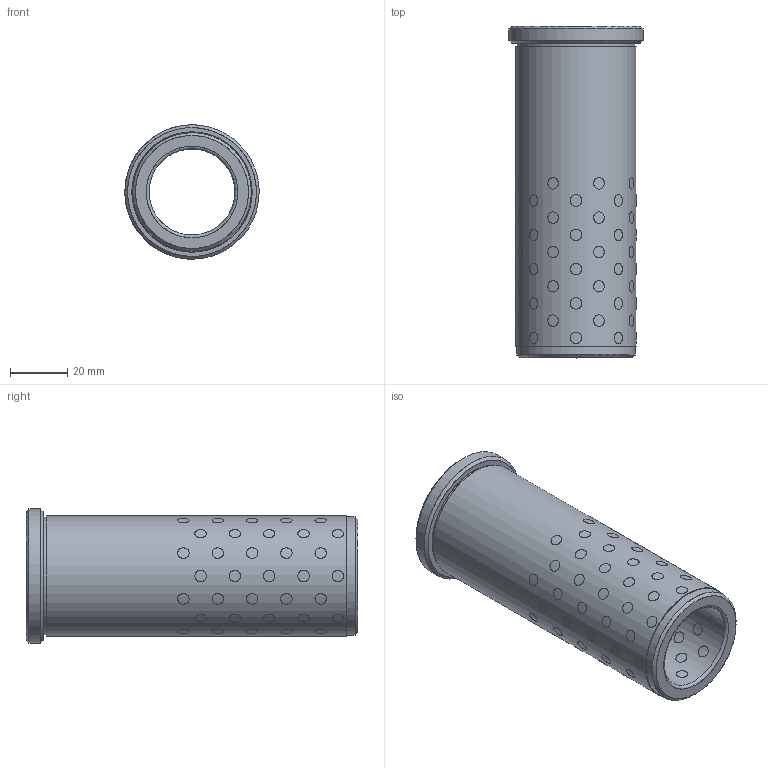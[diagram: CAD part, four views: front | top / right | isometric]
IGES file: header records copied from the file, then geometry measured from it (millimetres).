
Start section: Missler Software BP 521, 31674 Labege Cedex, France Tel   : +33 (0)5 61 00 03 00 Fax   : +33 (0)5 61 00 03 03 Email : sup.topsolid@topsolid.com
Global section: file name: D:\Cuma\D30.05\D30.05_30116.igs; native system: TopSolid v605250 Missler Software; preprocessor: IGES preprocessor v100000; date: 030120.205155; units: millimetre
Bounding box: 46.97 x 116 x 47 mm (x, y, z)
Surface area: 37843.3 mm2 (no closed solid volume)
Topology: 0 solids, 0 shells, 303 faces, 6308 edges, 6108 vertices
Faces by surface type: bspline 303
